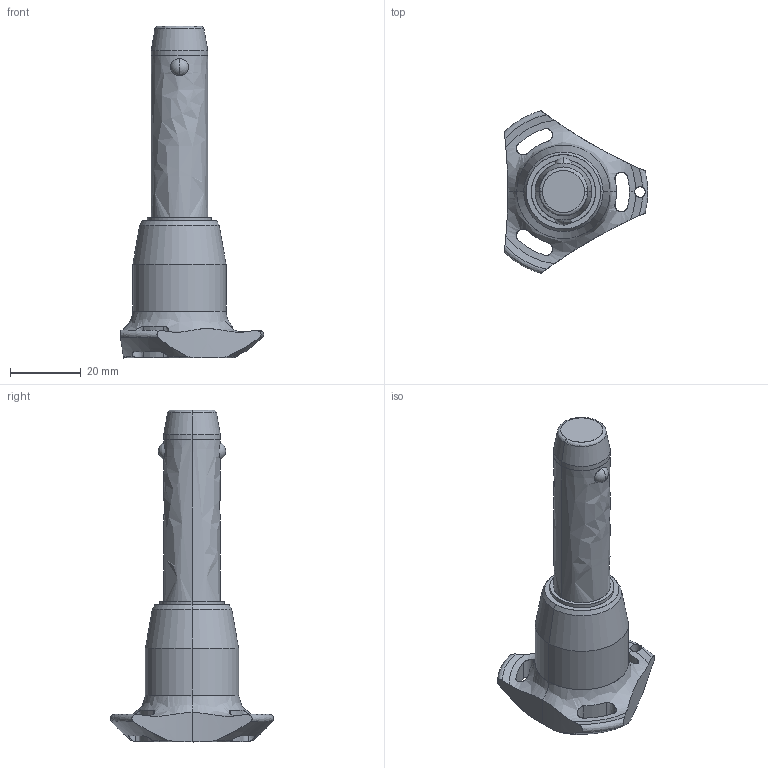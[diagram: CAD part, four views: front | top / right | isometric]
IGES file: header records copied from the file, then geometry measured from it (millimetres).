
Start section: SolidWorks IGES file using analytic representation for surfaces
Global section: file name: C:\Users\ianosborn\Desktop\QR1716_v2\QR1716_v2_20251114_IGES\QR1716.M16-040-T.igs; native system: SolidWorks 2019; preprocessor: SolidWorks 2019; author: IanOsborn; date: 251113.103914; units: millimetre
Bounding box: 40.5 x 45.88 x 93.7 mm (x, y, z)
Surface area: 8669.5 mm2 (no closed solid volume)
Topology: 0 solids, 0 shells, 68 faces, 1451 edges, 1447 vertices
Faces by surface type: revolution 52, bspline 16
